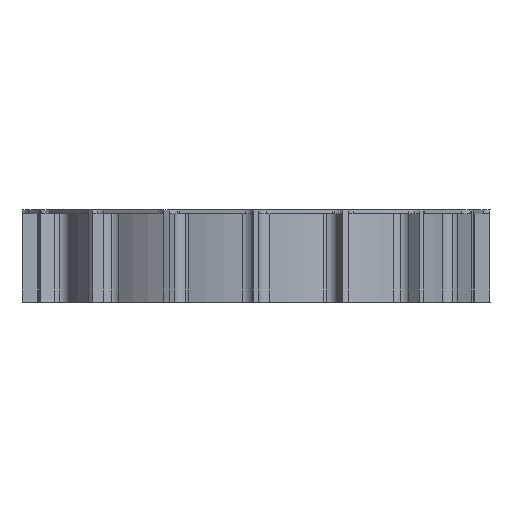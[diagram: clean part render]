
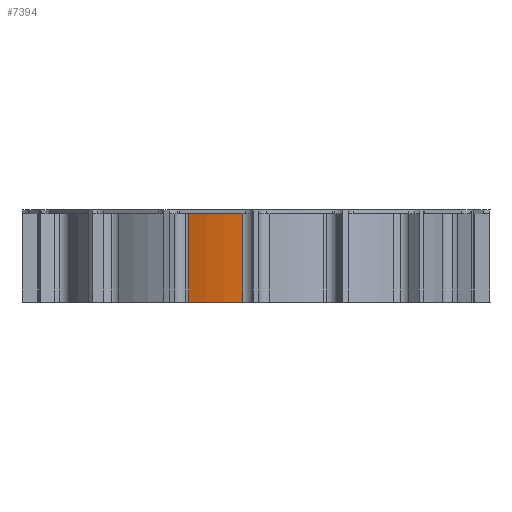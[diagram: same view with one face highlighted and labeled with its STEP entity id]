
A CAD part, left-side view. The second image highlights one B-rep face of the part: STEP entity #7394.
In plain terms, the highlighted cylindrical face has radius 56.5 mm (diameter 113 mm), a partial arc.
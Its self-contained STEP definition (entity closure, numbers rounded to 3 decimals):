
#150 = DIRECTION ( 'NONE',  ( 0., 0., 1. ) ) ;
#421 = ORIENTED_EDGE ( 'NONE', *, *, #7036, .F. ) ;
#975 = CARTESIAN_POINT ( 'NONE',  ( 0., 0., 0. ) ) ;
#1503 = VECTOR ( 'NONE', #150, 1000. ) ;
#1838 = DIRECTION ( 'NONE',  ( 0., 0., 1. ) ) ;
#1868 = ORIENTED_EDGE ( 'NONE', *, *, #5240, .F. ) ;
#2023 = CARTESIAN_POINT ( 'NONE',  ( 0., 0., 24. ) ) ;
#2070 = DIRECTION ( 'NONE',  ( 0., 0., -1. ) ) ;
#2071 = DIRECTION ( 'NONE',  ( 0.383, 0.924, 0. ) ) ;
#2218 = EDGE_LOOP ( 'NONE', ( #1868, #421, #9754, #8820 ) ) ;
#2922 = DIRECTION ( 'NONE',  ( 0., 0., 1. ) ) ;
#3287 = VERTEX_POINT ( 'NONE', #5619 ) ;
#3536 = CARTESIAN_POINT ( 'NONE',  ( 0., 0., 25. ) ) ;
#3991 = CIRCLE ( 'NONE', #6907, 56.5 ) ;
#4933 = VERTEX_POINT ( 'NONE', #8294 ) ;
#5020 = AXIS2_PLACEMENT_3D ( 'NONE', #2023, #2922, #2071 ) ;
#5052 = CARTESIAN_POINT ( 'NONE',  ( -56.388, 3.561, -10.065 ) ) ;
#5063 = VECTOR ( 'NONE', #9905, 1000. ) ;
#5162 = DIRECTION ( 'NONE',  ( 1., 0., 0. ) ) ;
#5240 = EDGE_CURVE ( 'NONE', #9090, #7925, #9998, .T. ) ;
#5308 = FACE_OUTER_BOUND ( 'NONE', #2218, .T. ) ;
#5619 = CARTESIAN_POINT ( 'NONE',  ( -56.388, 3.561, 0. ) ) ;
#5708 = CARTESIAN_POINT ( 'NONE',  ( -53.458, 18.289, -10.604 ) ) ;
#5906 = EDGE_CURVE ( 'NONE', #3287, #7925, #9139, .T. ) ;
#5998 = CYLINDRICAL_SURFACE ( 'NONE', #10489, 56.5 ) ;
#6558 = LINE ( 'NONE', #5708, #5063 ) ;
#6907 = AXIS2_PLACEMENT_3D ( 'NONE', #975, #1838, #5162 ) ;
#7036 = EDGE_CURVE ( 'NONE', #4933, #9090, #6558, .T. ) ;
#7394 = ADVANCED_FACE ( 'NONE', ( #5308 ), #5998, .T. ) ;
#7925 = VERTEX_POINT ( 'NONE', #8067 ) ;
#8067 = CARTESIAN_POINT ( 'NONE',  ( -56.388, 3.561, 24. ) ) ;
#8078 = EDGE_CURVE ( 'NONE', #4933, #3287, #3991, .T. ) ;
#8294 = CARTESIAN_POINT ( 'NONE',  ( -53.458, 18.289, 0. ) ) ;
#8820 = ORIENTED_EDGE ( 'NONE', *, *, #5906, .T. ) ;
#9090 = VERTEX_POINT ( 'NONE', #10495 ) ;
#9139 = LINE ( 'NONE', #5052, #1503 ) ;
#9754 = ORIENTED_EDGE ( 'NONE', *, *, #8078, .T. ) ;
#9905 = DIRECTION ( 'NONE',  ( 0., 0., 1. ) ) ;
#9998 = CIRCLE ( 'NONE', #5020, 56.5 ) ;
#10093 = DIRECTION ( 'NONE',  ( -1., 0., 0. ) ) ;
#10489 = AXIS2_PLACEMENT_3D ( 'NONE', #3536, #2070, #10093 ) ;
#10495 = CARTESIAN_POINT ( 'NONE',  ( -53.458, 18.289, 24. ) ) ;
